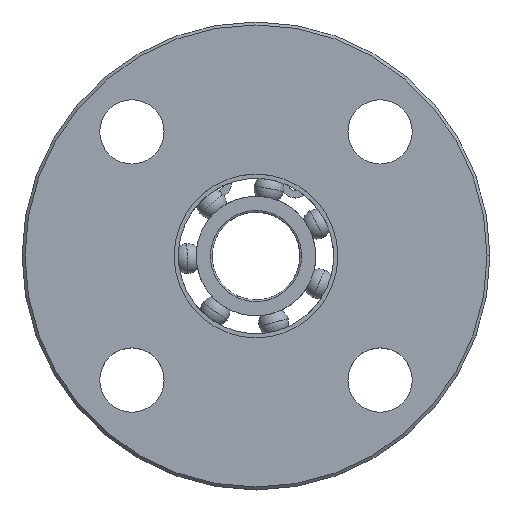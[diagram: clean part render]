
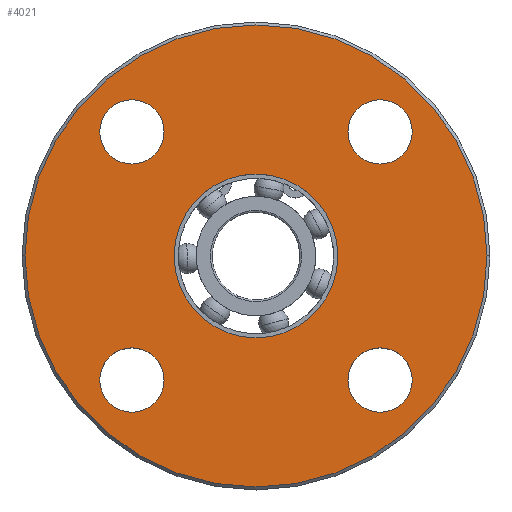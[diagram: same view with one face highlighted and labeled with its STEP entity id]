
A CAD part, top view. The second image highlights one B-rep face of the part: STEP entity #4021.
In plain terms, the highlighted planar face has unit normal (0, 0, 1).
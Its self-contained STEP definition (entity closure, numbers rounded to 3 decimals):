
#20 = FACE_BOUND ( 'NONE', #1690, .T. ) ;
#38 = AXIS2_PLACEMENT_3D ( 'NONE', #3890, #110, #2362 ) ;
#73 = AXIS2_PLACEMENT_3D ( 'NONE', #3227, #3544, #1684 ) ;
#110 = DIRECTION ( 'NONE',  ( 0., 0., -1. ) ) ;
#134 = VERTEX_POINT ( 'NONE', #2389 ) ;
#193 = EDGE_CURVE ( 'NONE', #2324, #2125, #2824, .T. ) ;
#206 = CIRCLE ( 'NONE', #73, 5.5 ) ;
#215 = EDGE_LOOP ( 'NONE', ( #4026, #1695 ) ) ;
#230 = DIRECTION ( 'NONE',  ( -1., 0., 0. ) ) ;
#266 = CARTESIAN_POINT ( 'NONE',  ( 21.213, 21.213, 257. ) ) ;
#293 = FACE_BOUND ( 'NONE', #3151, .T. ) ;
#379 = DIRECTION ( 'NONE',  ( 0., 0., -1. ) ) ;
#465 = EDGE_CURVE ( 'NONE', #1816, #3836, #2482, .T. ) ;
#536 = DIRECTION ( 'NONE',  ( 1., 0., 0. ) ) ;
#551 = DIRECTION ( 'NONE',  ( 0., 1., 0. ) ) ;
#578 = CARTESIAN_POINT ( 'NONE',  ( -15.713, 21.213, 257. ) ) ;
#585 = PLANE ( 'NONE',  #4080 ) ;
#605 = AXIS2_PLACEMENT_3D ( 'NONE', #2174, #1197, #3427 ) ;
#650 = FACE_BOUND ( 'NONE', #2531, .T. ) ;
#667 = VERTEX_POINT ( 'NONE', #2945 ) ;
#668 = EDGE_CURVE ( 'NONE', #700, #3828, #1697, .T. ) ;
#689 = DIRECTION ( 'NONE',  ( 1., 0., 0. ) ) ;
#700 = VERTEX_POINT ( 'NONE', #3951 ) ;
#751 = EDGE_LOOP ( 'NONE', ( #2919, #863 ) ) ;
#758 = EDGE_CURVE ( 'NONE', #134, #3527, #3802, .T. ) ;
#764 = AXIS2_PLACEMENT_3D ( 'NONE', #266, #1200, #551 ) ;
#769 = CARTESIAN_POINT ( 'NONE',  ( 39.5, 0., 257. ) ) ;
#809 = EDGE_CURVE ( 'NONE', #3836, #1816, #1275, .T. ) ;
#863 = ORIENTED_EDGE ( 'NONE', *, *, #1361, .F. ) ;
#916 = AXIS2_PLACEMENT_3D ( 'NONE', #2112, #3365, #536 ) ;
#988 = FACE_BOUND ( 'NONE', #215, .T. ) ;
#1094 = ORIENTED_EDGE ( 'NONE', *, *, #2460, .T. ) ;
#1115 = ORIENTED_EDGE ( 'NONE', *, *, #465, .T. ) ;
#1170 = DIRECTION ( 'NONE',  ( 0., 0., -1. ) ) ;
#1197 = DIRECTION ( 'NONE',  ( 0., 0., -1. ) ) ;
#1200 = DIRECTION ( 'NONE',  ( 0., 0., -1. ) ) ;
#1248 = VERTEX_POINT ( 'NONE', #3622 ) ;
#1275 = CIRCLE ( 'NONE', #605, 5.5 ) ;
#1289 = AXIS2_PLACEMENT_3D ( 'NONE', #2618, #1947, #2264 ) ;
#1293 = FACE_OUTER_BOUND ( 'NONE', #751, .T. ) ;
#1302 = AXIS2_PLACEMENT_3D ( 'NONE', #3656, #2720, #1402 ) ;
#1319 = ORIENTED_EDGE ( 'NONE', *, *, #2466, .T. ) ;
#1361 = EDGE_CURVE ( 'NONE', #1248, #1996, #1846, .T. ) ;
#1368 = ORIENTED_EDGE ( 'NONE', *, *, #3582, .T. ) ;
#1381 = DIRECTION ( 'NONE',  ( 0., 0., -1. ) ) ;
#1402 = DIRECTION ( 'NONE',  ( -1., 0., 0. ) ) ;
#1498 = CIRCLE ( 'NONE', #2161, 5.5 ) ;
#1547 = EDGE_CURVE ( 'NONE', #2764, #667, #2414, .T. ) ;
#1684 = DIRECTION ( 'NONE',  ( -1., 0., 0. ) ) ;
#1690 = EDGE_LOOP ( 'NONE', ( #1368, #3210 ) ) ;
#1695 = ORIENTED_EDGE ( 'NONE', *, *, #2594, .T. ) ;
#1697 = CIRCLE ( 'NONE', #38, 5.5 ) ;
#1779 = CARTESIAN_POINT ( 'NONE',  ( 26.713, -21.213, 257. ) ) ;
#1809 = DIRECTION ( 'NONE',  ( 0., 0., -1. ) ) ;
#1816 = VERTEX_POINT ( 'NONE', #2621 ) ;
#1846 = CIRCLE ( 'NONE', #916, 39.5 ) ;
#1849 = CARTESIAN_POINT ( 'NONE',  ( -14., 0., 257. ) ) ;
#1897 = CARTESIAN_POINT ( 'NONE',  ( -21.213, -21.213, 257. ) ) ;
#1935 = CARTESIAN_POINT ( 'NONE',  ( 21.213, -21.213, 257. ) ) ;
#1947 = DIRECTION ( 'NONE',  ( 0., 0., -1. ) ) ;
#1981 = ORIENTED_EDGE ( 'NONE', *, *, #1547, .T. ) ;
#1996 = VERTEX_POINT ( 'NONE', #769 ) ;
#2077 = CARTESIAN_POINT ( 'NONE',  ( -21.213, -26.713, 257. ) ) ;
#2112 = CARTESIAN_POINT ( 'NONE',  ( 0., 0., 257. ) ) ;
#2120 = CARTESIAN_POINT ( 'NONE',  ( -21.213, -21.213, 257. ) ) ;
#2125 = VERTEX_POINT ( 'NONE', #1849 ) ;
#2161 = AXIS2_PLACEMENT_3D ( 'NONE', #1897, #379, #3847 ) ;
#2174 = CARTESIAN_POINT ( 'NONE',  ( 21.213, 21.213, 257. ) ) ;
#2257 = EDGE_LOOP ( 'NONE', ( #1319, #2506 ) ) ;
#2264 = DIRECTION ( 'NONE',  ( -1., 0., 0. ) ) ;
#2324 = VERTEX_POINT ( 'NONE', #3106 ) ;
#2347 = CIRCLE ( 'NONE', #3260, 39.5 ) ;
#2362 = DIRECTION ( 'NONE',  ( 1., 0., 0. ) ) ;
#2389 = CARTESIAN_POINT ( 'NONE',  ( -26.713, 21.213, 257. ) ) ;
#2414 = CIRCLE ( 'NONE', #3398, 5.5 ) ;
#2460 = EDGE_CURVE ( 'NONE', #667, #2764, #1498, .T. ) ;
#2466 = EDGE_CURVE ( 'NONE', #3828, #700, #3801, .T. ) ;
#2482 = CIRCLE ( 'NONE', #764, 5.5 ) ;
#2506 = ORIENTED_EDGE ( 'NONE', *, *, #668, .T. ) ;
#2531 = EDGE_LOOP ( 'NONE', ( #1981, #1094 ) ) ;
#2532 = DIRECTION ( 'NONE',  ( 0., 0., -1. ) ) ;
#2594 = EDGE_CURVE ( 'NONE', #3527, #134, #206, .T. ) ;
#2618 = CARTESIAN_POINT ( 'NONE',  ( 0., 0., 257. ) ) ;
#2621 = CARTESIAN_POINT ( 'NONE',  ( 21.213, 15.713, 257. ) ) ;
#2657 = DIRECTION ( 'NONE',  ( 1., 0., 0. ) ) ;
#2720 = DIRECTION ( 'NONE',  ( 0., 0., -1. ) ) ;
#2764 = VERTEX_POINT ( 'NONE', #2077 ) ;
#2813 = DIRECTION ( 'NONE',  ( 0., 0., 1. ) ) ;
#2824 = CIRCLE ( 'NONE', #2890, 14. ) ;
#2872 = AXIS2_PLACEMENT_3D ( 'NONE', #1935, #2532, #689 ) ;
#2890 = AXIS2_PLACEMENT_3D ( 'NONE', #3372, #1809, #230 ) ;
#2919 = ORIENTED_EDGE ( 'NONE', *, *, #2960, .F. ) ;
#2945 = CARTESIAN_POINT ( 'NONE',  ( -21.213, -15.713, 257. ) ) ;
#2960 = EDGE_CURVE ( 'NONE', #1996, #1248, #2347, .T. ) ;
#2986 = CARTESIAN_POINT ( 'NONE',  ( 0., 0., 257. ) ) ;
#3052 = CARTESIAN_POINT ( 'NONE',  ( 21.213, 26.713, 257. ) ) ;
#3106 = CARTESIAN_POINT ( 'NONE',  ( 14., 0., 257. ) ) ;
#3146 = DIRECTION ( 'NONE',  ( 0., -1., 0. ) ) ;
#3151 = EDGE_LOOP ( 'NONE', ( #3280, #1115 ) ) ;
#3192 = CIRCLE ( 'NONE', #1289, 14. ) ;
#3210 = ORIENTED_EDGE ( 'NONE', *, *, #193, .T. ) ;
#3227 = CARTESIAN_POINT ( 'NONE',  ( -21.213, 21.213, 257. ) ) ;
#3260 = AXIS2_PLACEMENT_3D ( 'NONE', #2986, #1381, #2657 ) ;
#3280 = ORIENTED_EDGE ( 'NONE', *, *, #809, .T. ) ;
#3351 = DIRECTION ( 'NONE',  ( 0., -1., 0. ) ) ;
#3365 = DIRECTION ( 'NONE',  ( 0., 0., -1. ) ) ;
#3372 = CARTESIAN_POINT ( 'NONE',  ( 0., 0., 257. ) ) ;
#3398 = AXIS2_PLACEMENT_3D ( 'NONE', #2120, #1170, #3351 ) ;
#3427 = DIRECTION ( 'NONE',  ( 0., 1., 0. ) ) ;
#3439 = CARTESIAN_POINT ( 'NONE',  ( 0., 0., 257. ) ) ;
#3527 = VERTEX_POINT ( 'NONE', #578 ) ;
#3544 = DIRECTION ( 'NONE',  ( 0., 0., -1. ) ) ;
#3582 = EDGE_CURVE ( 'NONE', #2125, #2324, #3192, .T. ) ;
#3622 = CARTESIAN_POINT ( 'NONE',  ( -39.5, 0., 257. ) ) ;
#3656 = CARTESIAN_POINT ( 'NONE',  ( -21.213, 21.213, 257. ) ) ;
#3801 = CIRCLE ( 'NONE', #2872, 5.5 ) ;
#3802 = CIRCLE ( 'NONE', #1302, 5.5 ) ;
#3828 = VERTEX_POINT ( 'NONE', #1779 ) ;
#3836 = VERTEX_POINT ( 'NONE', #3052 ) ;
#3847 = DIRECTION ( 'NONE',  ( 0., -1., 0. ) ) ;
#3890 = CARTESIAN_POINT ( 'NONE',  ( 21.213, -21.213, 257. ) ) ;
#3951 = CARTESIAN_POINT ( 'NONE',  ( 15.713, -21.213, 257. ) ) ;
#4021 = ADVANCED_FACE ( 'NONE', ( #4069, #20, #293, #650, #988, #1293 ), #585, .T. ) ;
#4026 = ORIENTED_EDGE ( 'NONE', *, *, #758, .T. ) ;
#4069 = FACE_BOUND ( 'NONE', #2257, .T. ) ;
#4080 = AXIS2_PLACEMENT_3D ( 'NONE', #3439, #2813, #3146 ) ;
